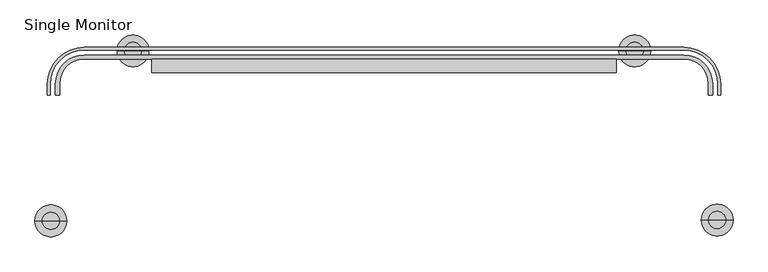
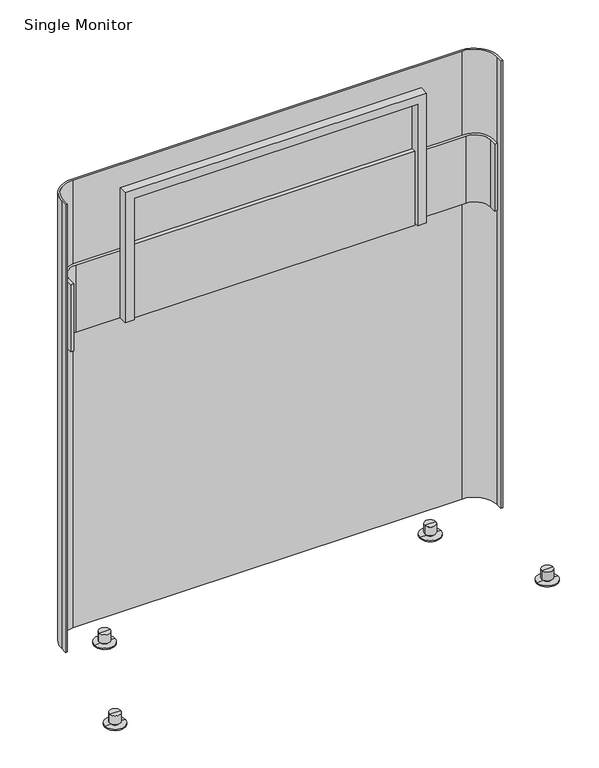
"""IFC4 building model written with IfcOpenShell, lengths in millimetres: furniture geometry, Steelcase - Media Scape - Table - Desk Height - Large D Shape with Attached Totem : Single Monitor."""

from ifc_helpers import new_model, si_unit, point, frame, frame_2d, origin, place, context, project, spatial, polyline, circle_curve, trimmed, segment, composite_curve, outline, extrude, source, transform, mapped, element, save
from ifc_brep_helpers import plane_surface, cylinder_surface, advanced_brep


def single_monitor_78e2c569(model_context):
    return source(origin(), model_context, "Body", "SolidModel", [
        advanced_brep(
        [(1467.5286204, -331.3137623, 3.2766), (1526.9277018, -331.3137623, 3.2766), (1526.9277018, -331.3137623, 0.0), (1467.5286204, -331.3137623, 0.0), (1486.1817454, -331.3137623, 3.2766), (1508.2745768, -331.3137623, 3.2766), (1486.1817454, -331.3137623, 9.1059), (1508.2745768, -331.3137623, 9.1059), (1481.2753242, -331.3137623, 9.1059), (1513.180998, -331.3137623, 9.1059), (1481.2753242, -331.3137623, 34.5059), (1513.180998, -331.3137623, 34.5059), (1497.2281611, -331.3137623, 34.5059), (1497.2281611, -331.3137623, 0.0)],
        [
            (0, 1, circle_curve(frame((1497.2281611, -331.3137623, 3.2766), z_axis=(0.0, 0.0, -1.0), x_axis=(1.0, 0.0, 0.0)), 29.6995407)),
            (1, 2),
            (2, 3, circle_curve(frame((1497.2281611, -331.3137623, 0.0), z_axis=(0.0, 0.0, 1.0), x_axis=(1.0, 0.0, 0.0)), 29.6995407)),
            (3, 0),
            (1, 0, circle_curve(frame((1497.2281611, -331.3137623, 3.2766), z_axis=(0.0, 0.0, -1.0), x_axis=(1.0, 0.0, 0.0)), 29.6995407)),
            (3, 2, circle_curve(frame((1497.2281611, -331.3137623, 0.0), z_axis=(0.0, 0.0, 1.0), x_axis=(1.0, 0.0, 0.0)), 29.6995407)),
            (4, 5, circle_curve(frame((1497.2281611, -331.3137623, 3.2766), z_axis=(0.0, 0.0, -1.0), x_axis=(1.0, 0.0, 0.0)), 11.0464157)),
            (5, 1),
            (0, 4),
            (5, 4, circle_curve(frame((1497.2281611, -331.3137623, 3.2766), z_axis=(0.0, 0.0, -1.0), x_axis=(1.0, 0.0, 0.0)), 11.0464157)),
            (6, 7, circle_curve(frame((1497.2281611, -331.3137623, 9.1059), z_axis=(0.0, 0.0, -1.0), x_axis=(1.0, 0.0, 0.0)), 11.0464157)),
            (7, 5),
            (4, 6),
            (7, 6, circle_curve(frame((1497.2281611, -331.3137623, 9.1059), z_axis=(0.0, 0.0, -1.0), x_axis=(1.0, 0.0, 0.0)), 11.0464157)),
            (8, 9, circle_curve(frame((1497.2281611, -331.3137623, 9.1059), z_axis=(0.0, 0.0, -1.0), x_axis=(1.0, 0.0, 0.0)), 15.9528369)),
            (9, 7),
            (6, 8),
            (9, 8, circle_curve(frame((1497.2281611, -331.3137623, 9.1059), z_axis=(0.0, 0.0, -1.0), x_axis=(1.0, 0.0, 0.0)), 15.9528369)),
            (10, 11, circle_curve(frame((1497.2281611, -331.3137623, 34.5059), z_axis=(0.0, 0.0, -1.0), x_axis=(1.0, 0.0, 0.0)), 15.9528369)),
            (11, 9),
            (8, 10),
            (11, 10, circle_curve(frame((1497.2281611, -331.3137623, 34.5059), z_axis=(0.0, 0.0, -1.0), x_axis=(1.0, 0.0, 0.0)), 15.9528369)),
            (12, 11),
            (10, 12),
            (2, 13),
            (13, 3),
        ],
        [
            cylinder_surface(frame((1497.2281611, -331.3137623, 9.1059), z_axis=(0.0, 0.0, 1.0), x_axis=(1.0, 0.0, 0.0)), 29.6995407),
            plane_surface(frame((1497.2281611, -331.3137623, 3.2766), z_axis=(0.0, 0.0, 1.0), x_axis=(1.0, 0.0, 0.0))),
            cylinder_surface(frame((1497.2281611, -331.3137623, 9.1059), z_axis=(0.0, 0.0, 1.0), x_axis=(1.0, 0.0, 0.0)), 11.0464157),
            plane_surface(frame((1497.2281611, -331.3137623, 9.1059), z_axis=(0.0, 0.0, -1.0), x_axis=(1.0, 0.0, 0.0))),
            cylinder_surface(frame((1497.2281611, -331.3137623, 9.1059), z_axis=(0.0, 0.0, 1.0), x_axis=(1.0, 0.0, 0.0)), 15.9528369),
            plane_surface(frame((1497.2281611, -331.3137623, 34.5059), z_axis=(0.0, 0.0, 1.0), x_axis=(1.0, 0.0, 0.0))),
            plane_surface(frame((1497.2281611, -331.3137623, 0.0), z_axis=(0.0, 0.0, -1.0), x_axis=(1.0, 0.0, 0.0))),
        ],
        [
            (0, [[1, 2, 3, 4]]),
            (0, [[5, -4, 6, -2]]),
            (1, [[7, 8, -1, 9]]),
            (1, [[10, -9, -5, -8]]),
            (2, [[11, 12, -7, 13]]),
            (2, [[14, -13, -10, -12]]),
            (3, [[15, 16, -11, 17]]),
            (3, [[18, -17, -14, -16]]),
            (4, [[19, 20, -15, 21]]),
            (4, [[22, -21, -18, -20]]),
            (5, [[23, -19, 24]]),
            (5, [[-24, -22, -23]]),
            (6, [[-3, 25, 26]]),
            (6, [[-6, -26, -25]]),
        ],
    ),
        advanced_brep(
        [(257.3900798, -332.9012623, 0.0), (227.6905391, -332.9012623, 0.0), (287.0896204, -332.9012623, 0.0), (273.3429167, -332.9012623, 34.5059), (241.4372428, -332.9012623, 34.5059), (257.3900798, -332.9012623, 34.5059), (273.3429167, -332.9012623, 9.1059), (241.4372428, -332.9012623, 9.1059), (268.4364954, -332.9012623, 9.1059), (246.3436641, -332.9012623, 9.1059), (268.4364954, -332.9012623, 3.2766), (246.3436641, -332.9012623, 3.2766), (287.0896204, -332.9012623, 3.2766), (227.6905391, -332.9012623, 3.2766)],
        [
            (0, 1),
            (1, 2, circle_curve(frame((257.3900798, -332.9012623, 0.0), z_axis=(0.0, 0.0, -1.0), x_axis=(-1.0, 0.0, 0.0)), 29.6995407)),
            (2, 0),
            (2, 1, circle_curve(frame((257.3900798, -332.9012623, 0.0), z_axis=(0.0, 0.0, -1.0), x_axis=(-1.0, 0.0, 0.0)), 29.6995407)),
            (3, 4, circle_curve(frame((257.3900798, -332.9012623, 34.5059), z_axis=(0.0, 0.0, 1.0), x_axis=(-1.0, 0.0, 0.0)), 15.9528369)),
            (4, 5),
            (5, 3),
            (4, 3, circle_curve(frame((257.3900798, -332.9012623, 34.5059), z_axis=(0.0, 0.0, 1.0), x_axis=(-1.0, 0.0, 0.0)), 15.9528369)),
            (6, 7, circle_curve(frame((257.3900798, -332.9012623, 9.1059), z_axis=(0.0, 0.0, 1.0), x_axis=(-1.0, 0.0, 0.0)), 15.9528369)),
            (7, 4),
            (3, 6),
            (7, 6, circle_curve(frame((257.3900798, -332.9012623, 9.1059), z_axis=(0.0, 0.0, 1.0), x_axis=(-1.0, 0.0, 0.0)), 15.9528369)),
            (8, 9, circle_curve(frame((257.3900798, -332.9012623, 9.1059), z_axis=(0.0, 0.0, 1.0), x_axis=(-1.0, 0.0, 0.0)), 11.0464157)),
            (9, 7),
            (6, 8),
            (9, 8, circle_curve(frame((257.3900798, -332.9012623, 9.1059), z_axis=(0.0, 0.0, 1.0), x_axis=(-1.0, 0.0, 0.0)), 11.0464157)),
            (10, 11, circle_curve(frame((257.3900798, -332.9012623, 3.2766), z_axis=(0.0, 0.0, 1.0), x_axis=(-1.0, 0.0, 0.0)), 11.0464157)),
            (11, 9),
            (8, 10),
            (11, 10, circle_curve(frame((257.3900798, -332.9012623, 3.2766), z_axis=(0.0, 0.0, 1.0), x_axis=(-1.0, 0.0, 0.0)), 11.0464157)),
            (12, 13, circle_curve(frame((257.3900798, -332.9012623, 3.2766), z_axis=(0.0, 0.0, 1.0), x_axis=(-1.0, 0.0, 0.0)), 29.6995407)),
            (13, 11),
            (10, 12),
            (13, 12, circle_curve(frame((257.3900798, -332.9012623, 3.2766), z_axis=(0.0, 0.0, 1.0), x_axis=(-1.0, 0.0, 0.0)), 29.6995407)),
            (1, 13),
            (12, 2),
        ],
        [
            plane_surface(frame((257.3900798, -332.9012623, 0.0), z_axis=(0.0, 0.0, -1.0), x_axis=(-1.0, 0.0, 0.0))),
            plane_surface(frame((257.3900798, -332.9012623, 34.5059), z_axis=(0.0, 0.0, 1.0), x_axis=(-1.0, 0.0, 0.0))),
            cylinder_surface(frame((257.3900798, -332.9012623, 9.1059), z_axis=(0.0, 0.0, -1.0), x_axis=(-1.0, 0.0, 0.0)), 15.9528369),
            plane_surface(frame((257.3900798, -332.9012623, 9.1059), z_axis=(0.0, 0.0, -1.0), x_axis=(-1.0, 0.0, 0.0))),
            cylinder_surface(frame((257.3900798, -332.9012623, 9.1059), z_axis=(0.0, 0.0, -1.0), x_axis=(-1.0, 0.0, 0.0)), 11.0464157),
            plane_surface(frame((257.3900798, -332.9012623, 3.2766), z_axis=(0.0, 0.0, 1.0), x_axis=(-1.0, 0.0, 0.0))),
            cylinder_surface(frame((257.3900798, -332.9012623, 9.1059), z_axis=(0.0, 0.0, -1.0), x_axis=(-1.0, 0.0, 0.0)), 29.6995407),
        ],
        [
            (0, [[1, 2, 3]]),
            (0, [[-3, 4, -1]]),
            (1, [[5, 6, 7]]),
            (1, [[8, -7, -6]]),
            (2, [[9, 10, -5, 11]]),
            (2, [[12, -11, -8, -10]]),
            (3, [[13, 14, -9, 15]]),
            (3, [[16, -15, -12, -14]]),
            (4, [[17, 18, -13, 19]]),
            (4, [[20, -19, -16, -18]]),
            (5, [[21, 22, -17, 23]]),
            (5, [[24, -23, -20, -22]]),
            (6, [[-2, 25, -21, 26]]),
            (6, [[-4, -26, -24, -25]]),
        ],
    ),
        advanced_brep(
        [(1343.693159, -15.9494141, 0.0), (1313.9936183, -15.9494141, 0.0), (1373.3926997, -15.9494141, 0.0), (1359.6459959, -15.9494141, 34.5059), (1327.7403221, -15.9494141, 34.5059), (1343.693159, -15.9494141, 34.5059), (1359.6459959, -15.9494141, 9.1059), (1327.7403221, -15.9494141, 9.1059), (1354.7395747, -15.9494141, 9.1059), (1332.6467433, -15.9494141, 9.1059), (1354.7395747, -15.9494141, 3.2766), (1332.6467433, -15.9494141, 3.2766), (1373.3926997, -15.9494141, 3.2766), (1313.9936183, -15.9494141, 3.2766)],
        [
            (0, 1),
            (1, 2, circle_curve(frame((1343.693159, -15.9494141, 0.0), z_axis=(0.0, 0.0, -1.0), x_axis=(-1.0, 0.0, 0.0)), 29.6995407)),
            (2, 0),
            (2, 1, circle_curve(frame((1343.693159, -15.9494141, 0.0), z_axis=(0.0, 0.0, -1.0), x_axis=(-1.0, 0.0, 0.0)), 29.6995407)),
            (3, 4, circle_curve(frame((1343.693159, -15.9494141, 34.5059), z_axis=(0.0, 0.0, 1.0), x_axis=(-1.0, 0.0, 0.0)), 15.9528369)),
            (4, 5),
            (5, 3),
            (4, 3, circle_curve(frame((1343.693159, -15.9494141, 34.5059), z_axis=(0.0, 0.0, 1.0), x_axis=(-1.0, 0.0, 0.0)), 15.9528369)),
            (6, 7, circle_curve(frame((1343.693159, -15.9494141, 9.1059), z_axis=(0.0, 0.0, 1.0), x_axis=(-1.0, 0.0, 0.0)), 15.9528369)),
            (7, 4),
            (3, 6),
            (7, 6, circle_curve(frame((1343.693159, -15.9494141, 9.1059), z_axis=(0.0, 0.0, 1.0), x_axis=(-1.0, 0.0, 0.0)), 15.9528369)),
            (8, 9, circle_curve(frame((1343.693159, -15.9494141, 9.1059), z_axis=(0.0, 0.0, 1.0), x_axis=(-1.0, 0.0, 0.0)), 11.0464157)),
            (9, 7),
            (6, 8),
            (9, 8, circle_curve(frame((1343.693159, -15.9494141, 9.1059), z_axis=(0.0, 0.0, 1.0), x_axis=(-1.0, 0.0, 0.0)), 11.0464157)),
            (10, 11, circle_curve(frame((1343.693159, -15.9494141, 3.2766), z_axis=(0.0, 0.0, 1.0), x_axis=(-1.0, 0.0, 0.0)), 11.0464157)),
            (11, 9),
            (8, 10),
            (11, 10, circle_curve(frame((1343.693159, -15.9494141, 3.2766), z_axis=(0.0, 0.0, 1.0), x_axis=(-1.0, 0.0, 0.0)), 11.0464157)),
            (12, 13, circle_curve(frame((1343.693159, -15.9494141, 3.2766), z_axis=(0.0, 0.0, 1.0), x_axis=(-1.0, 0.0, 0.0)), 29.6995407)),
            (13, 11),
            (10, 12),
            (13, 12, circle_curve(frame((1343.693159, -15.9494141, 3.2766), z_axis=(0.0, 0.0, 1.0), x_axis=(-1.0, 0.0, 0.0)), 29.6995407)),
            (1, 13),
            (12, 2),
        ],
        [
            plane_surface(frame((1343.693159, -15.9494141, 0.0), z_axis=(0.0, 0.0, -1.0), x_axis=(-1.0, 0.0, 0.0))),
            plane_surface(frame((1343.693159, -15.9494141, 34.5059), z_axis=(0.0, 0.0, 1.0), x_axis=(-1.0, 0.0, 0.0))),
            cylinder_surface(frame((1343.693159, -15.9494141, 9.1059), z_axis=(0.0, 0.0, -1.0), x_axis=(-1.0, 0.0, 0.0)), 15.9528369),
            plane_surface(frame((1343.693159, -15.9494141, 9.1059), z_axis=(0.0, 0.0, -1.0), x_axis=(-1.0, 0.0, 0.0))),
            cylinder_surface(frame((1343.693159, -15.9494141, 9.1059), z_axis=(0.0, 0.0, -1.0), x_axis=(-1.0, 0.0, 0.0)), 11.0464157),
            plane_surface(frame((1343.693159, -15.9494141, 3.2766), z_axis=(0.0, 0.0, 1.0), x_axis=(-1.0, 0.0, 0.0))),
            cylinder_surface(frame((1343.693159, -15.9494141, 9.1059), z_axis=(0.0, 0.0, -1.0), x_axis=(-1.0, 0.0, 0.0)), 29.6995407),
        ],
        [
            (0, [[1, 2, 3]]),
            (0, [[-3, 4, -1]]),
            (1, [[5, 6, 7]]),
            (1, [[8, -7, -6]]),
            (2, [[9, 10, -5, 11]]),
            (2, [[12, -11, -8, -10]]),
            (3, [[13, 14, -9, 15]]),
            (3, [[16, -15, -12, -14]]),
            (4, [[17, 18, -13, 19]]),
            (4, [[20, -19, -16, -18]]),
            (5, [[21, 22, -17, 23]]),
            (5, [[24, -23, -20, -22]]),
            (6, [[-2, 25, -21, 26]]),
            (6, [[-4, -26, -24, -25]]),
        ],
    ),
        advanced_brep(
        [(410.243159, -15.9494141, 0.0), (380.5436183, -15.9494141, 0.0), (439.9426997, -15.9494141, 0.0), (426.1959959, -15.9494141, 34.5059), (394.2903221, -15.9494141, 34.5059), (410.243159, -15.9494141, 34.5059), (426.1959959, -15.9494141, 9.1059), (394.2903221, -15.9494141, 9.1059), (421.2895747, -15.9494141, 9.1059), (399.1967433, -15.9494141, 9.1059), (421.2895747, -15.9494141, 3.2766), (399.1967433, -15.9494141, 3.2766), (439.9426997, -15.9494141, 3.2766), (380.5436183, -15.9494141, 3.2766)],
        [
            (0, 1),
            (1, 2, circle_curve(frame((410.243159, -15.9494141, 0.0), z_axis=(0.0, 0.0, -1.0), x_axis=(-1.0, 0.0, 0.0)), 29.6995407)),
            (2, 0),
            (2, 1, circle_curve(frame((410.243159, -15.9494141, 0.0), z_axis=(0.0, 0.0, -1.0), x_axis=(-1.0, 0.0, 0.0)), 29.6995407)),
            (3, 4, circle_curve(frame((410.243159, -15.9494141, 34.5059), z_axis=(0.0, 0.0, 1.0), x_axis=(-1.0, 0.0, 0.0)), 15.9528369)),
            (4, 5),
            (5, 3),
            (4, 3, circle_curve(frame((410.243159, -15.9494141, 34.5059), z_axis=(0.0, 0.0, 1.0), x_axis=(-1.0, 0.0, 0.0)), 15.9528369)),
            (6, 7, circle_curve(frame((410.243159, -15.9494141, 9.1059), z_axis=(0.0, 0.0, 1.0), x_axis=(-1.0, 0.0, 0.0)), 15.9528369)),
            (7, 4),
            (3, 6),
            (7, 6, circle_curve(frame((410.243159, -15.9494141, 9.1059), z_axis=(0.0, 0.0, 1.0), x_axis=(-1.0, 0.0, 0.0)), 15.9528369)),
            (8, 9, circle_curve(frame((410.243159, -15.9494141, 9.1059), z_axis=(0.0, 0.0, 1.0), x_axis=(-1.0, 0.0, 0.0)), 11.0464157)),
            (9, 7),
            (6, 8),
            (9, 8, circle_curve(frame((410.243159, -15.9494141, 9.1059), z_axis=(0.0, 0.0, 1.0), x_axis=(-1.0, 0.0, 0.0)), 11.0464157)),
            (10, 11, circle_curve(frame((410.243159, -15.9494141, 3.2766), z_axis=(0.0, 0.0, 1.0), x_axis=(-1.0, 0.0, 0.0)), 11.0464157)),
            (11, 9),
            (8, 10),
            (11, 10, circle_curve(frame((410.243159, -15.9494141, 3.2766), z_axis=(0.0, 0.0, 1.0), x_axis=(-1.0, 0.0, 0.0)), 11.0464157)),
            (12, 13, circle_curve(frame((410.243159, -15.9494141, 3.2766), z_axis=(0.0, 0.0, 1.0), x_axis=(-1.0, 0.0, 0.0)), 29.6995407)),
            (13, 11),
            (10, 12),
            (13, 12, circle_curve(frame((410.243159, -15.9494141, 3.2766), z_axis=(0.0, 0.0, 1.0), x_axis=(-1.0, 0.0, 0.0)), 29.6995407)),
            (1, 13),
            (12, 2),
        ],
        [
            plane_surface(frame((410.243159, -15.9494141, 0.0), z_axis=(0.0, 0.0, -1.0), x_axis=(-1.0, 0.0, 0.0))),
            plane_surface(frame((410.243159, -15.9494141, 34.5059), z_axis=(0.0, 0.0, 1.0), x_axis=(-1.0, 0.0, 0.0))),
            cylinder_surface(frame((410.243159, -15.9494141, 9.1059), z_axis=(0.0, 0.0, -1.0), x_axis=(-1.0, 0.0, 0.0)), 15.9528369),
            plane_surface(frame((410.243159, -15.9494141, 9.1059), z_axis=(0.0, 0.0, -1.0), x_axis=(-1.0, 0.0, 0.0))),
            cylinder_surface(frame((410.243159, -15.9494141, 9.1059), z_axis=(0.0, 0.0, -1.0), x_axis=(-1.0, 0.0, 0.0)), 11.0464157),
            plane_surface(frame((410.243159, -15.9494141, 3.2766), z_axis=(0.0, 0.0, 1.0), x_axis=(-1.0, 0.0, 0.0))),
            cylinder_surface(frame((410.243159, -15.9494141, 9.1059), z_axis=(0.0, 0.0, -1.0), x_axis=(-1.0, 0.0, 0.0)), 29.6995407),
        ],
        [
            (0, [[1, 2, 3]]),
            (0, [[-3, 4, -1]]),
            (1, [[5, 6, 7]]),
            (1, [[8, -7, -6]]),
            (2, [[9, 10, -5, 11]]),
            (2, [[12, -11, -8, -10]]),
            (3, [[13, 14, -9, 15]]),
            (3, [[16, -15, -12, -14]]),
            (4, [[17, 18, -13, 19]]),
            (4, [[20, -19, -16, -18]]),
            (5, [[21, 22, -17, 23]]),
            (5, [[24, -23, -20, -22]]),
            (6, [[-2, 25, -21, 26]]),
            (6, [[-4, -26, -24, -25]]),
        ],
    ),
        extrude(outline(composite_curve([segment(trimmed(circle_curve(frame_2d((1435.112425, -77.4940467)), 53.5875745), [point((1435.112425, -23.9064722))], [point((1488.6999995, -77.4940467))], False, "CARTESIAN"), True, "CONTINUOUS"), segment(polyline([(1488.6999995, -77.4940467), (1488.6999995, -98.4376787), (1480.7572357, -98.4376787), (1480.7572357, -76.2)]), True, "CONTINUOUS"), segment(trimmed(circle_curve(frame_2d((1436.3072357, -76.2)), 44.45), [point((1480.7572357, -76.2))], [point((1436.3072357, -31.75))], True, "CARTESIAN"), True, "CONTINUOUS"), segment(polyline([(1436.3072357, -31.75), (318.3109957, -31.75)]), True, "CONTINUOUS"), segment(trimmed(circle_curve(frame_2d((318.3109957, -76.2)), 44.45), [point((318.3109957, -31.75))], [point((273.8609957, -76.2))], True, "CARTESIAN"), True, "CONTINUOUS"), segment(polyline([(273.8609957, -76.2), (273.8609957, -98.4376787), (265.9182414, -98.4376787), (265.9182414, -77.9390932)]), True, "CONTINUOUS"), segment(trimmed(circle_curve(frame_2d((319.9508624, -77.9390932)), 54.032621), [point((265.9182414, -77.9390932))], [point((319.9508624, -23.9064722))], False, "CARTESIAN"), True, "CONTINUOUS"), segment(polyline([(319.9508624, -23.9064722), (1435.112425, -23.9064722)]), True, "CONTINUOUS")], self_intersect=False)), frame((0.0, 0.0, 982.3196), z_axis=(0.0, 0.0, 1.0), x_axis=(1.0, 0.0, 0.0)), (0.0, 0.0, 1.0), 203.2),
        extrude(outline(polyline([(1283.7091157, -44.18838), (470.9091157, -44.18838), (470.9091157, -31.84398), (1283.7091157, -31.84398), (1283.7091157, -44.18838)])), frame((0.0, 0.0, 976.757), z_axis=(0.0, 0.0, 1.0), x_axis=(1.0, 0.0, 0.0)), (0.0, 0.0, 1.0), 223.5200271),
        extrude(outline(polyline([(1376.019643, 1309.1091157), (1376.019643, 445.5091157), (982.3196, 445.5091157), (982.3196, 470.9091157), (1350.6195946, 470.9091157), (1350.6195946, 1283.7091157), (982.3196, 1283.7091157), (982.3196, 1309.1091157), (1376.019643, 1309.1091157)])), frame((0.0, -57.24398, 0.0), z_axis=(0.0, 1.0, 0.0), x_axis=(0.0, 0.0, 1.0)), (0.0, 0.0, 1.0), 25.4),
        extrude(outline(composite_curve([segment(polyline([(256.1316294, -78.1177223), (256.1316294, -98.4376787), (251.0516294, -98.4376787), (251.0516294, -78.1177223)]), True, "CONTINUOUS"), segment(trimmed(circle_curve(frame_2d((319.6316294, -78.1177223)), 68.58), [point((251.0516294, -78.1177223))], [point((319.6316294, -9.5377223))], False, "CARTESIAN"), True, "CONTINUOUS"), segment(polyline([(319.6316294, -9.5377223), (1434.9866114, -9.5377223)]), True, "CONTINUOUS"), segment(trimmed(circle_curve(frame_2d((1434.9866114, -78.1177223)), 68.58), [point((1434.9866114, -9.5377223))], [point((1503.5666114, -78.1177223))], False, "CARTESIAN"), True, "CONTINUOUS"), segment(polyline([(1503.5666114, -78.1177223), (1503.5666114, -98.4376787), (1498.4866114, -98.4376787), (1498.4866114, -78.1177223)]), True, "CONTINUOUS"), segment(trimmed(circle_curve(frame_2d((1434.9866114, -78.1177223)), 63.5), [point((1498.4866114, -78.1177223))], [point((1434.9866114, -14.6177223))], True, "CARTESIAN"), True, "CONTINUOUS"), segment(polyline([(1434.9866114, -14.6177223), (319.6316294, -14.6177223)]), True, "CONTINUOUS"), segment(trimmed(circle_curve(frame_2d((319.6316294, -78.1177223)), 63.5), [point((319.6316294, -14.6177223))], [point((256.1316294, -78.1177223))], True, "CARTESIAN"), True, "CONTINUOUS")], self_intersect=False)), frame((0.0, 0.0, 75.7809), z_axis=(0.0, 0.0, 1.0), x_axis=(1.0, 0.0, 0.0)), (0.0, 0.0, 1.0), 1357.0966),
    ])


if __name__ == "__main__":
    model = new_model("IFC4")
    model_context = context("Model", 3, world=origin())
    ifc_project = project(units=[si_unit("LENGTHUNIT", "METRE", prefix="MILLI")], contexts=[model_context])
    site = spatial("IfcSite", under=ifc_project)
    building = spatial("IfcBuilding", under=site)
    placement = place(None, origin())
    single_monitor_shape = single_monitor_78e2c569(model_context)
    element("IfcFurniture", 1, ObjectType="Steelcase - Media Scape - Table - Desk Height - Large D Shape with Attached Totem : Single Monitor", at=placement, inside=building, context=model_context, shape_type="MappedRepresentation", body=[
        mapped(single_monitor_shape, transform((0.0, 0.0, 0.0), x_axis=(1.0, 0.0, 0.0), y_axis=(0.0, 1.0, 0.0), z_axis=(0.0, 0.0, 1.0))),
    ])
    save(model, "model.ifc")
